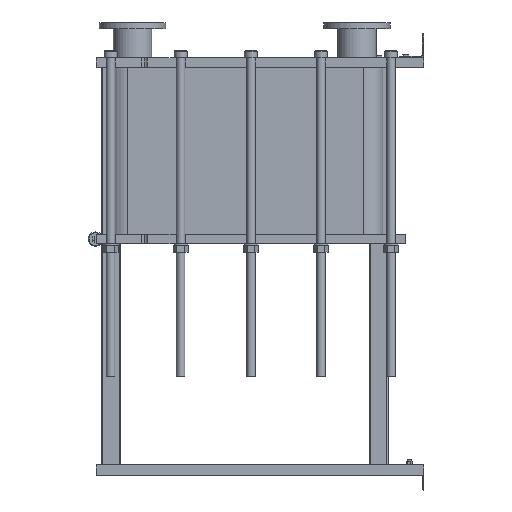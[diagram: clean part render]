
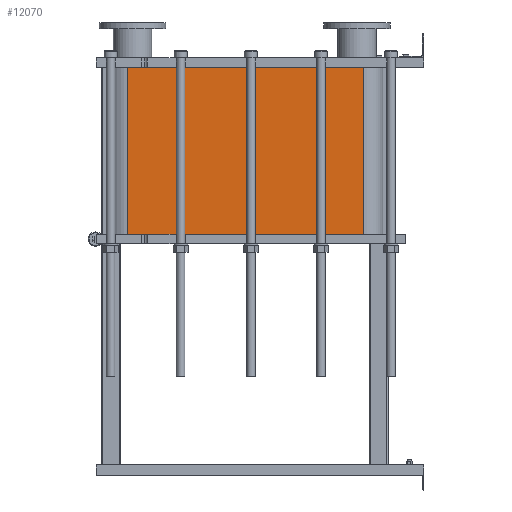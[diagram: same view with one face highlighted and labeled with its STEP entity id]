
A CAD part, left-side view. The second image highlights one B-rep face of the part: STEP entity #12070.
In plain terms, the highlighted planar face has unit normal (-1, 0, 0).
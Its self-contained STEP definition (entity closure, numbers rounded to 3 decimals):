
#1064=LINE('',#21140,#2164);
#1065=LINE('',#21144,#2165);
#1066=LINE('',#21146,#2166);
#1067=LINE('',#21147,#2167);
#2164=VECTOR('',#15790,10.);
#2165=VECTOR('',#15795,10.);
#2166=VECTOR('',#15796,10.);
#2167=VECTOR('',#15797,10.);
#3304=FACE_OUTER_BOUND('',#4091,.T.);
#4091=EDGE_LOOP('',(#9793,#9794,#9795,#9796));
#5677=VERTEX_POINT('',#21137);
#5678=VERTEX_POINT('',#21139);
#5679=VERTEX_POINT('',#21143);
#5680=VERTEX_POINT('',#21145);
#7118=EDGE_CURVE('',#5678,#5677,#1064,.T.);
#7120=EDGE_CURVE('',#5677,#5679,#1065,.T.);
#7121=EDGE_CURVE('',#5680,#5679,#1066,.T.);
#7122=EDGE_CURVE('',#5680,#5678,#1067,.T.);
#9793=ORIENTED_EDGE('',*,*,#7120,.T.);
#9794=ORIENTED_EDGE('',*,*,#7121,.F.);
#9795=ORIENTED_EDGE('',*,*,#7122,.T.);
#9796=ORIENTED_EDGE('',*,*,#7118,.T.);
#11441=PLANE('',#13191);
#12070=ADVANCED_FACE('',(#3304),#11441,.T.);
#13191=AXIS2_PLACEMENT_3D('',#21142,#15793,#15794);
#15790=DIRECTION('',(0.,0.,-1.));
#15793=DIRECTION('center_axis',(-1.,0.,0.));
#15794=DIRECTION('ref_axis',(0.,1.,0.));
#15795=DIRECTION('',(0.,-1.,0.));
#15796=DIRECTION('',(0.,0.,-1.));
#15797=DIRECTION('',(0.,1.,0.));
#21137=CARTESIAN_POINT('',(-248.152,1243.818,-700.35));
#21139=CARTESIAN_POINT('',(-248.152,1243.818,0.));
#21140=CARTESIAN_POINT('',(-248.152,1243.818,0.));
#21142=CARTESIAN_POINT('Origin',(-248.152,251.818,0.));
#21143=CARTESIAN_POINT('',(-248.152,251.818,-700.35));
#21144=CARTESIAN_POINT('',(-248.152,499.818,-700.35));
#21145=CARTESIAN_POINT('',(-248.152,251.818,0.));
#21146=CARTESIAN_POINT('',(-248.152,251.818,0.));
#21147=CARTESIAN_POINT('',(-248.152,251.818,0.));
